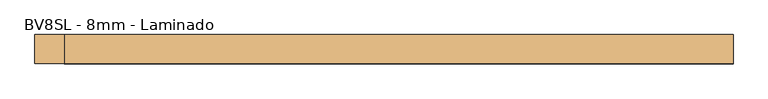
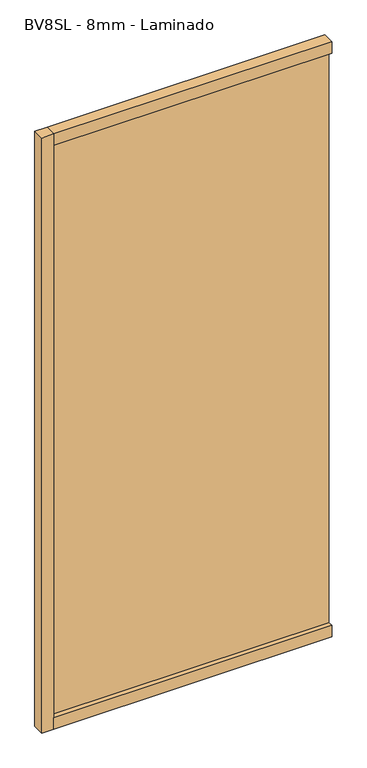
"""IFC4 building model written with IfcOpenShell, lengths in millimetres: door geometry, Mobiliário_Mobiliário de Escritório_Painel Vidro Simples - BVST e BVSL (Inicial ou Final)_Marelli : BV8SL - 8mm - Laminado."""

from ifc_helpers import new_model, si_unit, frame, origin, origin_with_axes, place, context, project, spatial, polyline, outline, extrude, source, transform, mapped, element, save


def bv8sl_8mm_laminado_92a510f9(model_context):
    return source(origin(), model_context, "Body", "SweptSolid", [
        extrude(outline(polyline([(25.0, 0.0), (-25.0, 0.0), (-25.0, 50.0), (-4.0, 50.0), (-4.0, 30.0), (4.0, 30.0), (4.0, 50.0), (25.0, 50.0), (25.0, 0.0)])), frame((-550.0, 0.0, 0.0), z_axis=(1.0, 0.0, 0.0), x_axis=(0.0, 1.0, 0.0)), (0.0, 0.0, 1.0), 1150.0),
        extrude(outline(polyline([(-600.0, -25.0), (-600.0, 25.0), (-550.0, 25.0), (-550.0, -25.0), (-600.0, -25.0)])), origin_with_axes(), (0.0, 0.0, 1.0), 2600.0),
        extrude(outline(polyline([(600.0, 4.0), (600.0, -4.0), (-550.0, -4.0), (-550.0, 4.0), (600.0, 4.0)])), frame((0.0, 0.0, 30.0), z_axis=(0.0, 0.0, 1.0), x_axis=(1.0, 0.0, 0.0)), (0.0, 0.0, 1.0), 2540.0),
        extrude(outline(polyline([(25.0, 2600.0), (25.0, 2550.0), (5.0, 2550.0), (5.0, 2570.0), (-5.0, 2570.0), (-5.0, 2550.0), (-25.0, 2550.0), (-25.0, 2600.0), (25.0, 2600.0)])), frame((-550.0, 0.0, 0.0), z_axis=(1.0, 0.0, 0.0), x_axis=(0.0, 1.0, 0.0)), (0.0, 0.0, 1.0), 1150.0),
    ])


if __name__ == "__main__":
    model = new_model("IFC4")
    model_context = context("Model", 3, world=origin())
    ifc_project = project(units=[si_unit("LENGTHUNIT", "METRE", prefix="MILLI")], contexts=[model_context])
    site = spatial("IfcSite", under=ifc_project)
    building = spatial("IfcBuilding", under=site)
    placement = place(None, origin())
    bv8sl_8mm_laminado_shape = bv8sl_8mm_laminado_92a510f9(model_context)
    element("IfcDoor", 1, ObjectType="Mobiliário_Mobiliário de Escritório_Painel Vidro Simples - BVST e BVSL (Inicial ou Final)_Marelli : BV8SL - 8mm - Laminado", at=placement, inside=building, context=model_context, shape_type="MappedRepresentation", body=[
        mapped(bv8sl_8mm_laminado_shape, transform((0.0, 0.0, 0.0), x_axis=(1.0, 0.0, 0.0), y_axis=(0.0, 1.0, 0.0), z_axis=(0.0, 0.0, 1.0))),
    ])
    save(model, "model.ifc")
